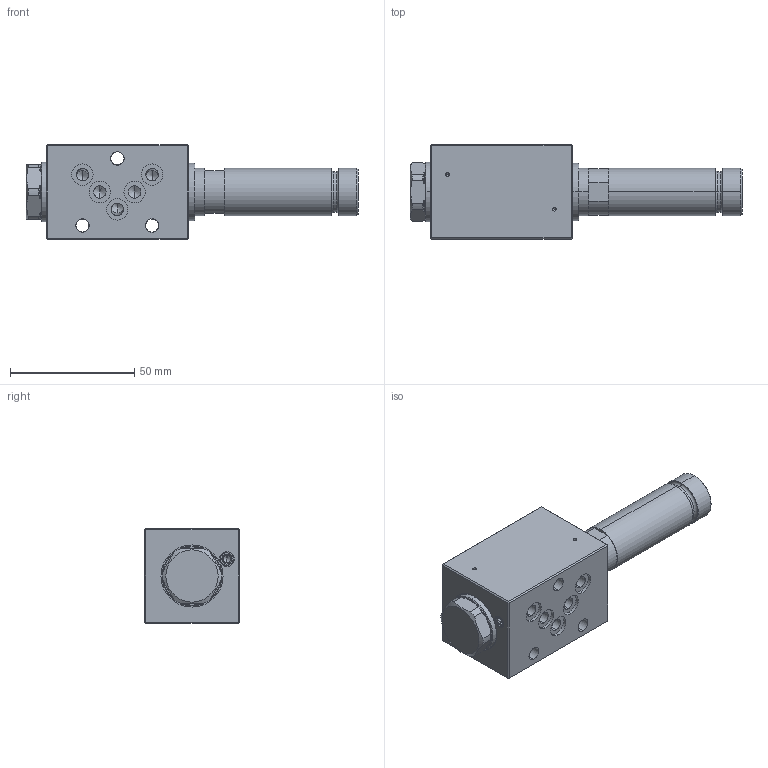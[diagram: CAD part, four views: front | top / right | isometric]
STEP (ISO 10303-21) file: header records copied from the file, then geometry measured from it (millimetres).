
FILE_DESCRIPTION (( 'STEP AP203' ), '1' );
FILE_NAME ('WDMFA04-4_2-Bside.step', '2013-07-25T09:07:56', ( 'Wandfluh AG' ), ( 'Wandfluh AG' ), 'SwSTEP 2.0', 'SolidWorks 2012', '' );
FILE_SCHEMA (( 'CONFIG_CONTROL_DESIGN' ));
Length unit declared in the file: millimetre
Products named in the file (1): WDMFA04-4_2-Bside
Bounding box: 133.5 x 38 x 38 mm (x, y, z)
Volume: 93369.2 mm3; surface area: 28028.1 mm2
Topology: 8 solids, 8 shells, 979 faces, 2670 edges, 1729 vertices
Faces by surface type: plane 586, cylinder 258, cone 71, torus 36, bspline 28
Entity records: 32890 total; most frequent: CARTESIAN_POINT 7646, DIRECTION 5337, ORIENTED_EDGE 5296, EDGE_CURVE 2648, AXIS2_PLACEMENT_3D 1876, VERTEX_POINT 1729, LINE 1585, VECTOR 1585
